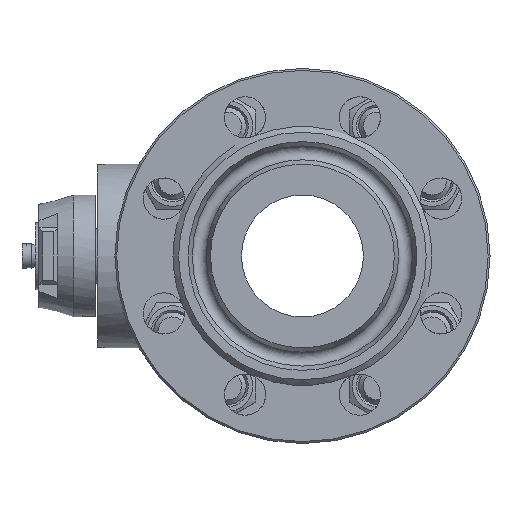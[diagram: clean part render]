
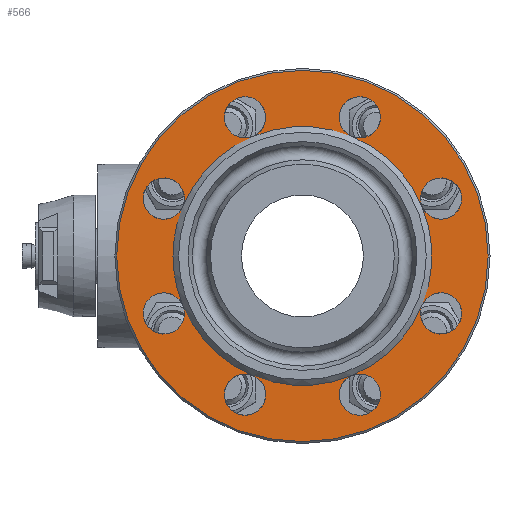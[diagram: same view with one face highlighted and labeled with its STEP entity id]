
A CAD part, left-side view. The second image highlights one B-rep face of the part: STEP entity #566.
In plain terms, the highlighted planar face has unit normal (-1, 0, 0).
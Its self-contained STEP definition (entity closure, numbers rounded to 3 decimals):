
#566=ADVANCED_FACE('',(#4483,#4485,#4487,#4489,#4491,#4493,#4495,#4497,#4499,#4501),
#4503,.T.);
#4483=FACE_BOUND('',#4484,.T.);
#4484=EDGE_LOOP('',(#9709));
#4485=FACE_BOUND('',#4486,.T.);
#4486=EDGE_LOOP('',(#9710));
#4487=FACE_BOUND('',#4488,.T.);
#4488=EDGE_LOOP('',(#9711));
#4489=FACE_BOUND('',#4490,.T.);
#4490=EDGE_LOOP('',(#9712));
#4491=FACE_BOUND('',#4492,.T.);
#4492=EDGE_LOOP('',(#9713));
#4493=FACE_BOUND('',#4494,.T.);
#4494=EDGE_LOOP('',(#9714));
#4495=FACE_BOUND('',#4496,.T.);
#4496=EDGE_LOOP('',(#9715));
#4497=FACE_BOUND('',#4498,.T.);
#4498=EDGE_LOOP('',(#9716,#9717,#9718,#9719,#9720,#9721,#9722,#9723));
#4499=FACE_BOUND('',#4500,.T.);
#4500=EDGE_LOOP('',(#9724));
#4501=FACE_OUTER_BOUND('',#4502,.T.);
#4502=EDGE_LOOP('',(#9725));
#4503=PLANE('',#4504);
#4504=AXIS2_PLACEMENT_3D('',#4505,#4506,#4507);
#4505=CARTESIAN_POINT('',(-162.,0.,0.));
#4506=DIRECTION('',(-1.,0.,0.));
#4507=DIRECTION('',(0.,1.,0.));
#9709=ORIENTED_EDGE('',*,*,#12379,.T.);
#9710=ORIENTED_EDGE('',*,*,#12377,.T.);
#9711=ORIENTED_EDGE('',*,*,#12375,.T.);
#9712=ORIENTED_EDGE('',*,*,#12373,.T.);
#9713=ORIENTED_EDGE('',*,*,#12371,.T.);
#9714=ORIENTED_EDGE('',*,*,#12370,.T.);
#9715=ORIENTED_EDGE('',*,*,#12383,.T.);
#9716=ORIENTED_EDGE('',*,*,#12470,.T.);
#9717=ORIENTED_EDGE('',*,*,#12471,.T.);
#9718=ORIENTED_EDGE('',*,*,#12472,.T.);
#9719=ORIENTED_EDGE('',*,*,#12473,.T.);
#9720=ORIENTED_EDGE('',*,*,#12474,.T.);
#9721=ORIENTED_EDGE('',*,*,#12475,.T.);
#9722=ORIENTED_EDGE('',*,*,#12476,.T.);
#9723=ORIENTED_EDGE('',*,*,#12477,.T.);
#9724=ORIENTED_EDGE('',*,*,#12381,.T.);
#9725=ORIENTED_EDGE('',*,*,#12478,.F.);
#12370=EDGE_CURVE('',#14996,#14996,#14998,.F.);
#12371=EDGE_CURVE('',#14999,#14999,#15000,.F.);
#12373=EDGE_CURVE('',#15002,#15002,#15003,.F.);
#12375=EDGE_CURVE('',#15005,#15005,#15006,.F.);
#12377=EDGE_CURVE('',#15008,#15008,#15009,.F.);
#12379=EDGE_CURVE('',#15011,#15011,#15012,.F.);
#12381=EDGE_CURVE('',#15014,#15014,#15015,.F.);
#12383=EDGE_CURVE('',#15017,#15017,#15018,.F.);
#12470=EDGE_CURVE('',#15168,#15169,#15170,.T.);
#12471=EDGE_CURVE('',#15169,#15171,#15172,.T.);
#12472=EDGE_CURVE('',#15171,#15173,#15174,.T.);
#12473=EDGE_CURVE('',#15173,#15175,#15176,.T.);
#12474=EDGE_CURVE('',#15175,#15177,#15178,.T.);
#12475=EDGE_CURVE('',#15177,#15179,#15180,.T.);
#12476=EDGE_CURVE('',#15179,#15181,#15182,.T.);
#12477=EDGE_CURVE('',#15181,#15168,#15183,.T.);
#12478=EDGE_CURVE('',#15184,#15184,#15185,.T.);
#14996=VERTEX_POINT('',#31231);
#14998=CIRCLE('',#31235,11.);
#14999=VERTEX_POINT('',#31239);
#15000=CIRCLE('',#31240,11.);
#15002=VERTEX_POINT('',#31247);
#15003=CIRCLE('',#31248,11.);
#15005=VERTEX_POINT('',#31255);
#15006=CIRCLE('',#31256,11.);
#15008=VERTEX_POINT('',#31263);
#15009=CIRCLE('',#31264,11.);
#15011=VERTEX_POINT('',#31271);
#15012=CIRCLE('',#31272,11.);
#15014=VERTEX_POINT('',#31279);
#15015=CIRCLE('',#31280,11.);
#15017=VERTEX_POINT('',#31287);
#15018=CIRCLE('',#31288,11.);
#15168=VERTEX_POINT('',#33162);
#15169=VERTEX_POINT('',#33163);
#15170=CIRCLE('',#33164,69.);
#15171=VERTEX_POINT('',#33168);
#15172=CIRCLE('',#33169,69.);
#15173=VERTEX_POINT('',#33173);
#15174=CIRCLE('',#33174,69.);
#15175=VERTEX_POINT('',#33178);
#15176=CIRCLE('',#33179,69.);
#15177=VERTEX_POINT('',#33183);
#15178=CIRCLE('',#33184,69.);
#15179=VERTEX_POINT('',#33188);
#15180=CIRCLE('',#33189,69.);
#15181=VERTEX_POINT('',#33193);
#15182=CIRCLE('',#33194,69.);
#15183=CIRCLE('',#33198,69.);
#15184=VERTEX_POINT('',#33202);
#15185=CIRCLE('',#33203,99.);
#31231=CARTESIAN_POINT('',(-162.,-30.615,-84.91));
#31235=AXIS2_PLACEMENT_3D('',#31236,#31237,#31238);
#31236=CARTESIAN_POINT('',(-162.,-30.615,-73.91));
#31237=DIRECTION('',(-1.,0.,0.));
#31238=DIRECTION('',(0.,1.,0.));
#31239=CARTESIAN_POINT('',(-162.,38.393,-81.689));
#31240=AXIS2_PLACEMENT_3D('',#31241,#31242,#31243);
#31241=CARTESIAN_POINT('',(-162.,30.615,-73.91));
#31242=DIRECTION('',(-1.,0.,0.));
#31243=DIRECTION('',(0.,1.,0.));
#31247=CARTESIAN_POINT('',(-162.,84.91,-30.615));
#31248=AXIS2_PLACEMENT_3D('',#31249,#31250,#31251);
#31249=CARTESIAN_POINT('',(-162.,73.91,-30.615));
#31250=DIRECTION('',(-1.,0.,0.));
#31251=DIRECTION('',(0.,1.,0.));
#31255=CARTESIAN_POINT('',(-162.,81.689,38.393));
#31256=AXIS2_PLACEMENT_3D('',#31257,#31258,#31259);
#31257=CARTESIAN_POINT('',(-162.,73.91,30.615));
#31258=DIRECTION('',(-1.,0.,0.));
#31259=DIRECTION('',(0.,1.,0.));
#31263=CARTESIAN_POINT('',(-162.,30.615,84.91));
#31264=AXIS2_PLACEMENT_3D('',#31265,#31266,#31267);
#31265=CARTESIAN_POINT('',(-162.,30.615,73.91));
#31266=DIRECTION('',(-1.,0.,0.));
#31267=DIRECTION('',(0.,1.,0.));
#31271=CARTESIAN_POINT('',(-162.,-38.393,81.689));
#31272=AXIS2_PLACEMENT_3D('',#31273,#31274,#31275);
#31273=CARTESIAN_POINT('',(-162.,-30.615,73.91));
#31274=DIRECTION('',(-1.,0.,0.));
#31275=DIRECTION('',(0.,1.,0.));
#31279=CARTESIAN_POINT('',(-162.,-84.91,30.615));
#31280=AXIS2_PLACEMENT_3D('',#31281,#31282,#31283);
#31281=CARTESIAN_POINT('',(-162.,-73.91,30.615));
#31282=DIRECTION('',(-1.,0.,0.));
#31283=DIRECTION('',(0.,1.,0.));
#31287=CARTESIAN_POINT('',(-162.,-81.689,-38.393));
#31288=AXIS2_PLACEMENT_3D('',#31289,#31290,#31291);
#31289=CARTESIAN_POINT('',(-162.,-73.91,-30.615));
#31290=DIRECTION('',(-1.,0.,0.));
#31291=DIRECTION('',(0.,1.,0.));
#33162=CARTESIAN_POINT('',(-162.,-63.748,-26.405));
#33163=CARTESIAN_POINT('',(-162.,26.405,-63.748));
#33164=AXIS2_PLACEMENT_3D('',#33165,#33166,#33167);
#33165=CARTESIAN_POINT('',(-162.,0.,0.));
#33166=DIRECTION('',(1.,0.,0.));
#33167=DIRECTION('',(0.,-0.924,-0.383));
#33168=CARTESIAN_POINT('',(-162.,63.748,-26.405));
#33169=AXIS2_PLACEMENT_3D('',#33170,#33171,#33172);
#33170=CARTESIAN_POINT('',(-162.,0.,0.));
#33171=DIRECTION('',(1.,0.,0.));
#33172=DIRECTION('',(0.,0.383,-0.924));
#33173=CARTESIAN_POINT('',(-162.,69.,0.));
#33174=AXIS2_PLACEMENT_3D('',#33175,#33176,#33177);
#33175=CARTESIAN_POINT('',(-162.,0.,0.));
#33176=DIRECTION('',(1.,0.,0.));
#33177=DIRECTION('',(0.,0.924,-0.383));
#33178=CARTESIAN_POINT('',(-162.,63.748,26.405));
#33179=AXIS2_PLACEMENT_3D('',#33180,#33181,#33182);
#33180=CARTESIAN_POINT('',(-162.,0.,0.));
#33181=DIRECTION('',(1.,0.,0.));
#33182=DIRECTION('',(0.,1.,0.));
#33183=CARTESIAN_POINT('',(-162.,26.405,63.748));
#33184=AXIS2_PLACEMENT_3D('',#33185,#33186,#33187);
#33185=CARTESIAN_POINT('',(-162.,0.,0.));
#33186=DIRECTION('',(1.,0.,0.));
#33187=DIRECTION('',(0.,0.924,0.383));
#33188=CARTESIAN_POINT('',(-162.,-26.405,63.748));
#33189=AXIS2_PLACEMENT_3D('',#33190,#33191,#33192);
#33190=CARTESIAN_POINT('',(-162.,0.,0.));
#33191=DIRECTION('',(1.,0.,0.));
#33192=DIRECTION('',(0.,0.383,0.924));
#33193=CARTESIAN_POINT('',(-162.,-63.748,26.405));
#33194=AXIS2_PLACEMENT_3D('',#33195,#33196,#33197);
#33195=CARTESIAN_POINT('',(-162.,0.,0.));
#33196=DIRECTION('',(1.,0.,0.));
#33197=DIRECTION('',(0.,-0.383,0.924));
#33198=AXIS2_PLACEMENT_3D('',#33199,#33200,#33201);
#33199=CARTESIAN_POINT('',(-162.,0.,0.));
#33200=DIRECTION('',(1.,0.,0.));
#33201=DIRECTION('',(0.,-0.924,0.383));
#33202=CARTESIAN_POINT('',(-162.,99.,0.));
#33203=AXIS2_PLACEMENT_3D('',#33204,#33205,#33206);
#33204=CARTESIAN_POINT('',(-162.,0.,0.));
#33205=DIRECTION('',(1.,0.,0.));
#33206=DIRECTION('',(0.,1.,0.));
